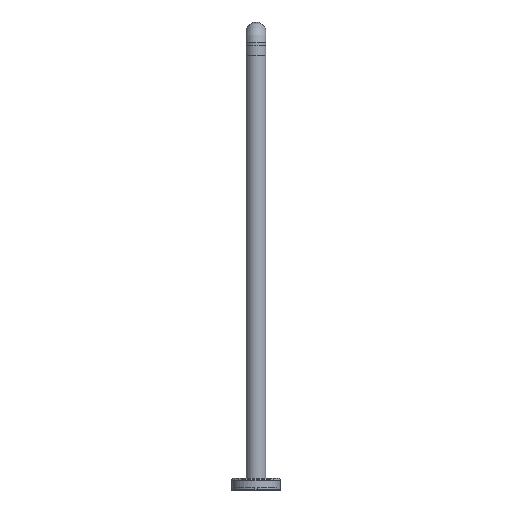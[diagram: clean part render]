
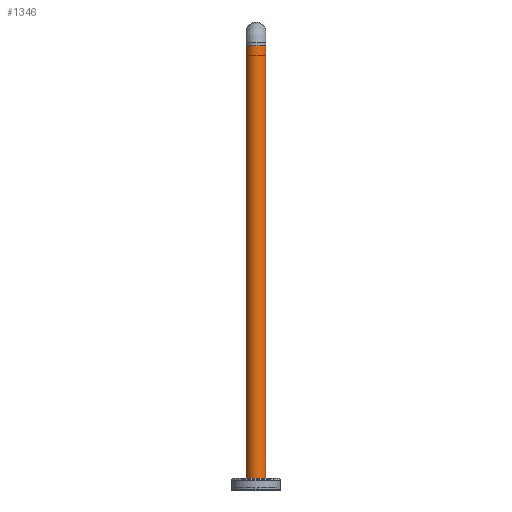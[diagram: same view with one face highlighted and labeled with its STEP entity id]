
A CAD part, left-side view. The second image highlights one B-rep face of the part: STEP entity #1346.
In plain terms, the highlighted cylindrical face has radius 21.2 mm (diameter 42.4 mm), a full revolution.
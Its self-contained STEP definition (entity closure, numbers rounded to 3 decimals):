
#73=B_SPLINE_CURVE_WITH_KNOTS('',3,(#2126,#2127,#2128,#2129,#2130,#2131,
#2132,#2133,#2134,#2135,#2136),.UNSPECIFIED.,.T.,.F.,(1,1,1,1,1,1,1,1,1,
1,1,1,1,1,1),(-0.008,-0.005,-0.003,
0.,0.003,0.005,0.008,
0.01,0.013,0.016,0.018,
0.021,0.023,0.026,0.029),
 .UNSPECIFIED.);
#267=ORIENTED_EDGE('',*,*,#523,.T.);
#268=ORIENTED_EDGE('',*,*,#524,.F.);
#269=ORIENTED_EDGE('',*,*,#469,.F.);
#469=EDGE_CURVE('',#600,#600,#695,.T.);
#523=EDGE_CURVE('',#648,#648,#73,.T.);
#524=EDGE_CURVE('',#649,#649,#732,.T.);
#600=VERTEX_POINT('',#2012);
#648=VERTEX_POINT('',#2137);
#649=VERTEX_POINT('',#2139);
#695=CIRCLE('',#1452,21.2);
#732=CIRCLE('',#1492,21.2);
#786=EDGE_LOOP('',(#267));
#787=EDGE_LOOP('',(#268));
#788=EDGE_LOOP('',(#269));
#910=FACE_BOUND('',#786,.T.);
#911=FACE_BOUND('',#787,.T.);
#912=FACE_BOUND('',#788,.T.);
#1021=CYLINDRICAL_SURFACE('',#1491,21.2);
#1346=ADVANCED_FACE('',(#910,#911,#912),#1021,.T.);
#1452=AXIS2_PLACEMENT_3D('',#2011,#1634,#1635);
#1491=AXIS2_PLACEMENT_3D('',#2125,#1728,#1729);
#1492=AXIS2_PLACEMENT_3D('',#2138,#1730,#1731);
#1634=DIRECTION('',(0.,0.,-1.));
#1635=DIRECTION('',(-1.,0.,0.));
#1728=DIRECTION('',(0.,0.,-1.));
#1729=DIRECTION('',(-1.,0.,0.));
#1730=DIRECTION('',(0.,0.,1.));
#1731=DIRECTION('',(1.,0.,0.));
#2011=CARTESIAN_POINT('',(0.,0.,0.));
#2012=CARTESIAN_POINT('',(-21.2,0.,0.));
#2125=CARTESIAN_POINT('',(0.,0.,942.8));
#2126=CARTESIAN_POINT('',(-21.069,2.607,517.802));
#2127=CARTESIAN_POINT('',(-21.265,-0.001,518.884));
#2128=CARTESIAN_POINT('',(-21.07,-2.605,517.803));
#2129=CARTESIAN_POINT('',(-20.872,-3.683,515.203));
#2130=CARTESIAN_POINT('',(-21.07,-2.605,512.596));
#2131=CARTESIAN_POINT('',(-21.265,-0.001,511.518));
#2132=CARTESIAN_POINT('',(-21.07,2.601,512.593));
#2133=CARTESIAN_POINT('',(-20.872,3.683,515.197));
#2134=CARTESIAN_POINT('',(-21.069,2.607,517.802));
#2135=CARTESIAN_POINT('',(-21.265,-0.001,518.884));
#2136=CARTESIAN_POINT('',(-21.07,-2.605,517.803));
#2137=CARTESIAN_POINT('',(-21.2,0.,518.524));
#2138=CARTESIAN_POINT('',(0.,0.,942.8));
#2139=CARTESIAN_POINT('',(21.2,0.,942.8));
